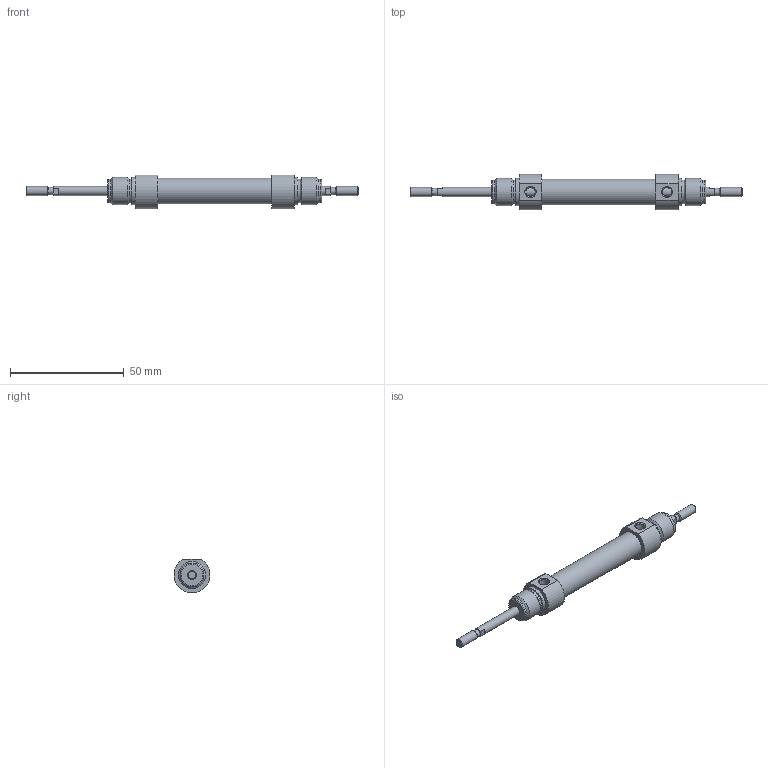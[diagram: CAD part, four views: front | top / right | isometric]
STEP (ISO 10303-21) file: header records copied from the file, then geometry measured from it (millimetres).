
FILE_DESCRIPTION( ( 'STEP AP203' ), '1' );
FILE_NAME( '//expscmdclustefs.cadenas.external/client_exchange/iodir/jobs/output/wkb68274303_no0/STEP/M101-010-0020-M__0__2_03.stp', ' ', ( ' ' ), ( ' ' ), 'PSStep 15.0.47', 'PARTsolutions', ' ' );
FILE_SCHEMA( ( 'CONFIG_CONTROL_DESIGN' ) );
Length unit declared in the file: millimetre
Products named in the file (3): M101-010-0020-M [0]; HI_M101-010-0020-M-[0]-z; HI_M101-010-0020-M-[0]-k
Assembly tree (2 placements, depth 2):
  M101-010-0020-M [0]
    HI_M101-010-0020-M-[0]-z
    HI_M101-010-0020-M-[0]-k
Bounding box: 146 x 15.77 x 14.87 mm (x, y, z)
Volume: 10547.5 mm3; surface area: 8119.7 mm2
Topology: 2 solids, 2 shells, 71 faces, 145 edges, 88 vertices
Faces by surface type: plane 32, cylinder 23, cone 14, torus 2
Full cylindrical faces by diameter (mm): 3.141 x2, 4 x6, 4.134 x2, 10 x2, 10.466 x4, 11.3 x1, 12 x4
Entity records: 1838 total; most frequent: CARTESIAN_POINT 358, DIRECTION 312, ORIENTED_EDGE 212, AXIS2_PLACEMENT_3D 140, EDGE_LOOP 120, EDGE_CURVE 106, FACE_OUTER_BOUND 94, VERTEX_POINT 82
